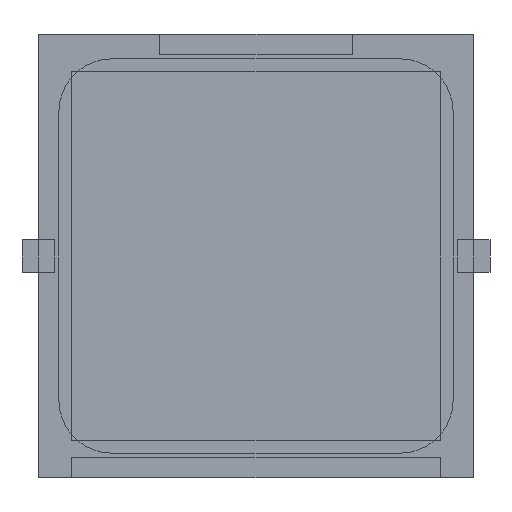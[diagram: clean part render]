
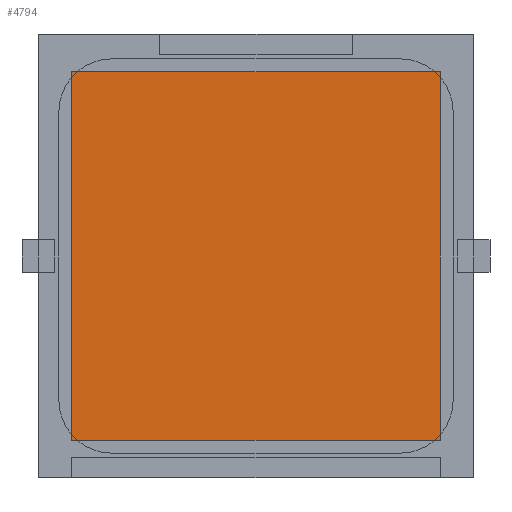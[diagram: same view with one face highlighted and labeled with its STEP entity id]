
A CAD part, front view. The second image highlights one B-rep face of the part: STEP entity #4794.
In plain terms, the highlighted planar face has unit normal (0, -1, 0).
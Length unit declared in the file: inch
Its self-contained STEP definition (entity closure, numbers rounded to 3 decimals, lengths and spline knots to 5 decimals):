
#348 = CARTESIAN_POINT ( 'NONE',  ( -0.45276, -0.00346, -0.45276 ) ) ;
#567 = EDGE_CURVE ( 'NONE', #2987, #7834, #6577, .T. ) ;
#1123 = VERTEX_POINT ( 'NONE', #5303 ) ;
#1172 = ORIENTED_EDGE ( 'NONE', *, *, #567, .T. ) ;
#1362 = DIRECTION ( 'NONE',  ( 0., -1., 0. ) ) ;
#1745 = EDGE_LOOP ( 'NONE', ( #1172, #7203, #3542, #6679 ) ) ;
#2237 = VERTEX_POINT ( 'NONE', #2687 ) ;
#2430 = DIRECTION ( 'NONE',  ( 0., 0., -1. ) ) ;
#2441 = VECTOR ( 'NONE', #7217, 39.37008 ) ;
#2687 = CARTESIAN_POINT ( 'NONE',  ( -0.45276, -0.00346, -0.45276 ) ) ;
#2987 = VERTEX_POINT ( 'NONE', #5182 ) ;
#3066 = CARTESIAN_POINT ( 'NONE',  ( 0.45276, -0.00346, 0.45276 ) ) ;
#3542 = ORIENTED_EDGE ( 'NONE', *, *, #6885, .T. ) ;
#3773 = VECTOR ( 'NONE', #4785, 39.37008 ) ;
#4056 = LINE ( 'NONE', #348, #6662 ) ;
#4114 = CARTESIAN_POINT ( 'NONE',  ( -0.45276, -0.00346, 0.45276 ) ) ;
#4198 = EDGE_CURVE ( 'NONE', #7834, #1123, #6694, .T. ) ;
#4617 = VECTOR ( 'NONE', #2430, 39.37008 ) ;
#4643 = AXIS2_PLACEMENT_3D ( 'NONE', #6862, #1362, #5674 ) ;
#4785 = DIRECTION ( 'NONE',  ( -1., 0., 0. ) ) ;
#4794 = ADVANCED_FACE ( 'NONE', ( #6275 ), #7459, .T. ) ;
#5182 = CARTESIAN_POINT ( 'NONE',  ( 0.45276, -0.00346, -0.45276 ) ) ;
#5264 = EDGE_CURVE ( 'NONE', #2237, #2987, #4056, .T. ) ;
#5303 = CARTESIAN_POINT ( 'NONE',  ( -0.45276, -0.00346, 0.45276 ) ) ;
#5518 = CARTESIAN_POINT ( 'NONE',  ( -0.45276, -0.00346, 0.45276 ) ) ;
#5674 = DIRECTION ( 'NONE',  ( 0., 0., 1. ) ) ;
#6275 = FACE_OUTER_BOUND ( 'NONE', #1745, .T. ) ;
#6577 = LINE ( 'NONE', #3066, #2441 ) ;
#6662 = VECTOR ( 'NONE', #7676, 39.37008 ) ;
#6679 = ORIENTED_EDGE ( 'NONE', *, *, #5264, .T. ) ;
#6694 = LINE ( 'NONE', #4114, #3773 ) ;
#6862 = CARTESIAN_POINT ( 'NONE',  ( 0., -0.00346, 0. ) ) ;
#6885 = EDGE_CURVE ( 'NONE', #1123, #2237, #7352, .T. ) ;
#7007 = CARTESIAN_POINT ( 'NONE',  ( 0.45276, -0.00346, 0.45276 ) ) ;
#7203 = ORIENTED_EDGE ( 'NONE', *, *, #4198, .T. ) ;
#7217 = DIRECTION ( 'NONE',  ( 0., 0., 1. ) ) ;
#7352 = LINE ( 'NONE', #5518, #4617 ) ;
#7459 = PLANE ( 'NONE',  #4643 ) ;
#7676 = DIRECTION ( 'NONE',  ( 1., 0., 0. ) ) ;
#7834 = VERTEX_POINT ( 'NONE', #7007 ) ;
